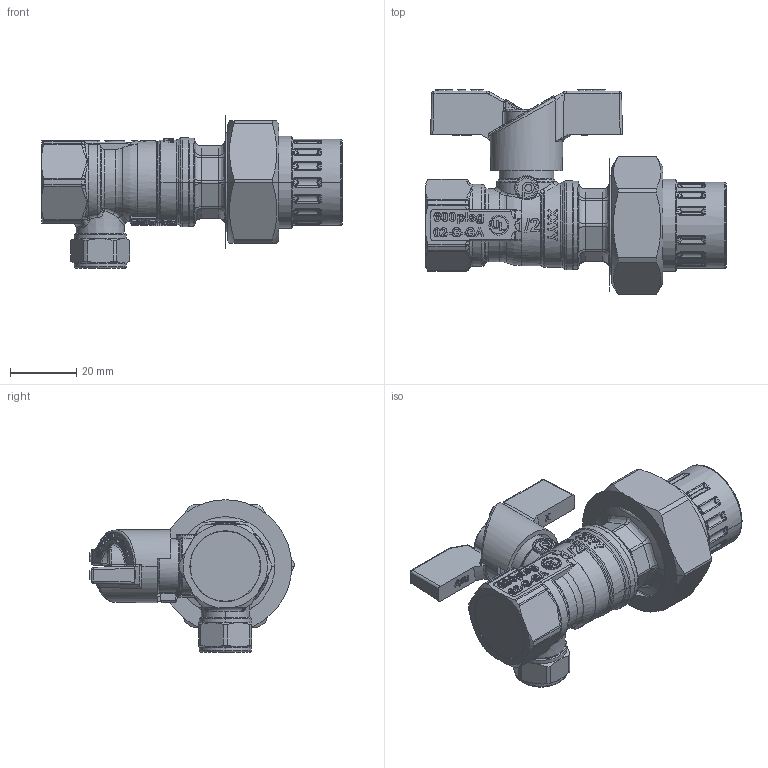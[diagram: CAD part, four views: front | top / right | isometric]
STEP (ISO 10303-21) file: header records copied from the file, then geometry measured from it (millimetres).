
FILE_DESCRIPTION((''),'2;1');
FILE_NAME('T203FU_1-2_ASM','2021-08-03T14:45:52',('Sergio.Dandrea'),(''),'CREO PARAMETRIC BY PTC INC, 2021063','CREO PARAMETRIC BY PTC INC, 2021063','');
FILE_SCHEMA(('CONFIG_CONTROL_DESIGN'));
Products named in the file (18): 89161; SEDE_PTFE_F12; 87057; OR_107_AF0; OR_107_AF1; ASTA_T203_1-2_O-RING_ASM; 88402; 11104; 16243; 11108; 11109; 11107; 87046; 87131; 00191; 87218; 87058; T203FU_1-2_ASM
Assembly tree (18 placements, depth 3):
  T203FU_1-2_ASM
    89161
    SEDE_PTFE_F12  x2
    ASTA_T203_1-2_O-RING_ASM
      87057
      OR_107_AF0
      OR_107_AF1
    88402
    11104
    16243
    11108
    11109
    11107
    87046
    87131
    00191
    87218
    87058
Bounding box: 90.9 x 61.9 x 46.08 mm (x, y, z)
Volume: 49386.8 mm3; surface area: 43685.1 mm2
Topology: 17 solids, 30 shells, 2633 faces, 6816 edges, 4359 vertices
Faces by surface type: extrusion 1042, plane 632, cylinder 320, bspline 298, cone 157, torus 122, sphere 46, revolution 16
Entity records: 104364 total; most frequent: CARTESIAN_POINT 45960, ORIENTED_EDGE 13505, DIRECTION 8782, EDGE_CURVE 6784, VERTEX_POINT 4343, B_SPLINE_CURVE_WITH_KNOTS 3968, VECTOR 3702, EDGE_LOOP 2788
